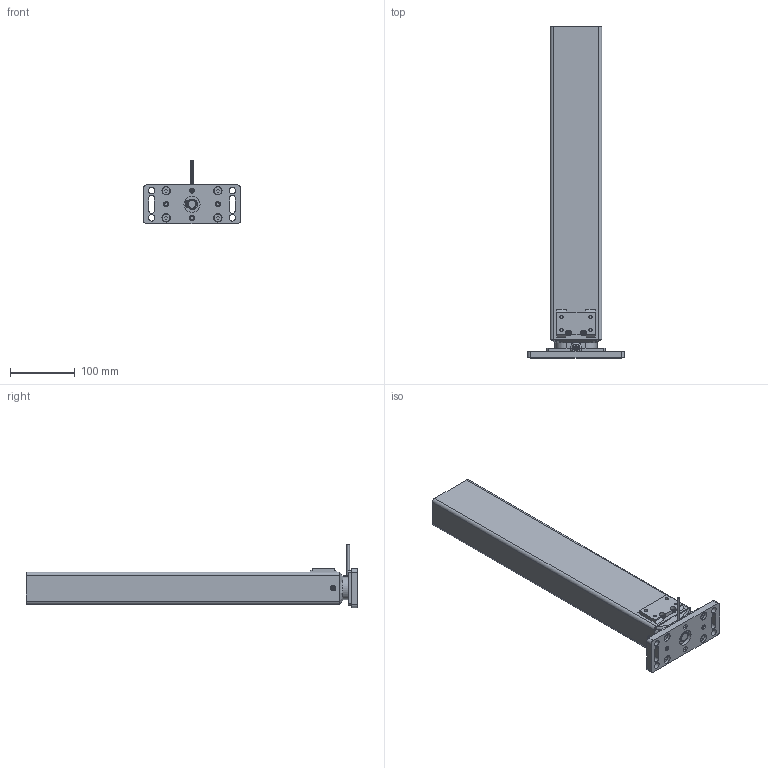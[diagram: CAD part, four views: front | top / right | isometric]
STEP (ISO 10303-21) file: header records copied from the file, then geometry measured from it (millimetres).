
FILE_DESCRIPTION(/* description */ ('Unknown'),/* implementation_level */ '2;1');
FILE_NAME(/* name */ '306.00091 Tischbein TA 1440 eingefahren',/* time_stamp */ '2018-01-31T17:03:56+01:00',/* author */ ('Unknown'),/* organization */ ('Unknown'),/* preprocessor_version */ 'ST-DEVELOPER v16.7',/* originating_system */ 'DEX',/* authorisation */ $);
FILE_SCHEMA (('AUTOMOTIVE_DESIGN {1 0 10303 214 3 1 1}'));
Length unit declared in the file: millimetre
Products named in the file (21): 306.00091; 124.00004; 142.00068; 107.00148_oa_0; 115.00007_oa_1; 125.00033; 142.00021; 125.00021; 127.00038; 127.00049_oa_2; Aussenprofil TA 1440; 127.00032; 127.00035; Innenprofil TA 1440; Abschlussplatte; 127.00048; Schraube 2,9x6,4; 127.00049_2'403_2'488_Kehlnaht 1_oa_3; 113.00002_70mm; 142.00031; 142.00077
Assembly tree (27 placements, depth 3):
  306.00091
    124.00004
    142.00068
    107.00148_oa_0
      115.00007_oa_1
      125.00033
      142.00021
      125.00021
    127.00038
    127.00049_oa_2
      Aussenprofil TA 1440
      127.00032
      127.00035
      Innenprofil TA 1440
      Abschlussplatte
      127.00048
      Schraube 2,9x6,4  x6
    113.00002_70mm
    142.00031
    142.00077  x4
  127.00049_2'403_2'488_Kehlnaht 1_oa_3
Bounding box: 150 x 513.5 x 98 mm (x, y, z)
Volume: 510162.1 mm3; surface area: 465157.5 mm2
Topology: 28 solids, 28 shells, 980 faces, 2309 edges, 1375 vertices
Faces by surface type: cylinder 361, plane 329, bspline 129, torus 74, cone 74, sphere 13
Full cylindrical faces by diameter (mm): 1.8 x2, 2.2 x1, 2.5 x6, 2.78 x1, 2.9 x6, 3.5 x1, 4 x1, 4.1 x1, 4.2 x1, 4.917 x16, 5.8 x8, 6 x4, 6.5 x6, 6.647 x1, 6.917 x2, 7 x4, 8 x3, 8.376 x2, 9 x2, 10 x4, 12 x1, 12.5 x1, 13 x6, 13.5 x1, 13.9 x2, 25 x1
Entity records: 23790 total; most frequent: CARTESIAN_POINT 5853, DIRECTION 3259, ORIENTED_EDGE 3140, EDGE_CURVE 1570, AXIS2_PLACEMENT_3D 1296, VERTEX_POINT 1020, FACE_BOUND 962, EDGE_LOOP 960
